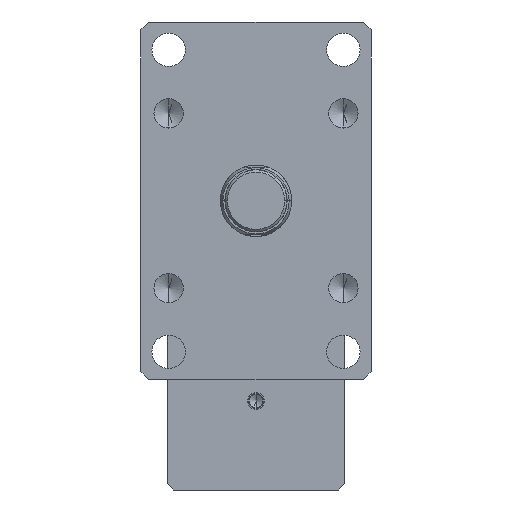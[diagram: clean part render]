
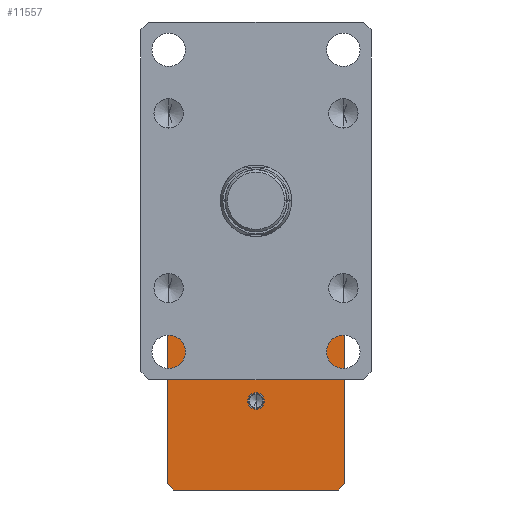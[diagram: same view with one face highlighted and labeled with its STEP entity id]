
A CAD part, left-side view. The second image highlights one B-rep face of the part: STEP entity #11557.
In plain terms, the highlighted planar face has unit normal (-1, 0, 0).
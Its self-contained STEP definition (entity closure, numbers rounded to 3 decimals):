
#7 = CIRCLE ( 'NONE', #11742, 5.143 ) ;
#72 = VERTEX_POINT ( 'NONE', #1084 ) ;
#95 = VECTOR ( 'NONE', #6334, 1000. ) ;
#216 = CARTESIAN_POINT ( 'NONE',  ( 275., 0., -131.143 ) ) ;
#294 = FACE_BOUND ( 'NONE', #956, .T. ) ;
#429 = DIRECTION ( 'NONE',  ( 0., 0., 1. ) ) ;
#570 = PLANE ( 'NONE',  #5093 ) ;
#670 = VECTOR ( 'NONE', #2112, 1000. ) ;
#689 = VERTEX_POINT ( 'NONE', #1125 ) ;
#956 = EDGE_LOOP ( 'NONE', ( #10398, #9100 ) ) ;
#969 = VERTEX_POINT ( 'NONE', #12212 ) ;
#1026 = EDGE_CURVE ( 'NONE', #689, #72, #1256, .T. ) ;
#1084 = CARTESIAN_POINT ( 'NONE',  ( 275., 56., -74. ) ) ;
#1110 = DIRECTION ( 'NONE',  ( -1., 0., 0. ) ) ;
#1125 = CARTESIAN_POINT ( 'NONE',  ( 275., 52., -70. ) ) ;
#1195 = LINE ( 'NONE', #5714, #6144 ) ;
#1256 = LINE ( 'NONE', #5092, #6198 ) ;
#1287 = EDGE_LOOP ( 'NONE', ( #5026, #2147, #9121, #4545, #11836, #11844, #7939, #8599 ) ) ;
#1340 = VERTEX_POINT ( 'NONE', #6036 ) ;
#1565 = DIRECTION ( 'NONE',  ( 1., 0., 0. ) ) ;
#1821 = DIRECTION ( 'NONE',  ( 0., 1., 0. ) ) ;
#1977 = VERTEX_POINT ( 'NONE', #216 ) ;
#2112 = DIRECTION ( 'NONE',  ( 0., -0.707, 0.707 ) ) ;
#2147 = ORIENTED_EDGE ( 'NONE', *, *, #5008, .T. ) ;
#2489 = VERTEX_POINT ( 'NONE', #4521 ) ;
#3251 = DIRECTION ( 'NONE',  ( 0., 0.707, 0.707 ) ) ;
#4016 = VECTOR ( 'NONE', #3251, 1000. ) ;
#4191 = CARTESIAN_POINT ( 'NONE',  ( 275., -56., -74. ) ) ;
#4292 = VERTEX_POINT ( 'NONE', #9918 ) ;
#4521 = CARTESIAN_POINT ( 'NONE',  ( 275., -52., -70. ) ) ;
#4545 = ORIENTED_EDGE ( 'NONE', *, *, #1026, .T. ) ;
#4631 = EDGE_CURVE ( 'NONE', #2489, #689, #1195, .T. ) ;
#4665 = DIRECTION ( 'NONE',  ( 0., 0., 1. ) ) ;
#4679 = CIRCLE ( 'NONE', #6335, 5.143 ) ;
#4947 = EDGE_CURVE ( 'NONE', #10882, #1977, #7, .T. ) ;
#5008 = EDGE_CURVE ( 'NONE', #4292, #2489, #9563, .T. ) ;
#5026 = ORIENTED_EDGE ( 'NONE', *, *, #12475, .T. ) ;
#5092 = CARTESIAN_POINT ( 'NONE',  ( 275., 56., -74. ) ) ;
#5093 = AXIS2_PLACEMENT_3D ( 'NONE', #11328, #1565, #8451 ) ;
#5164 = DIRECTION ( 'NONE',  ( 0., 0.707, -0.707 ) ) ;
#5355 = VERTEX_POINT ( 'NONE', #7889 ) ;
#5423 = CARTESIAN_POINT ( 'NONE',  ( 275., 56., -182. ) ) ;
#5513 = LINE ( 'NONE', #5423, #7515 ) ;
#5647 = VERTEX_POINT ( 'NONE', #11309 ) ;
#5714 = CARTESIAN_POINT ( 'NONE',  ( 275., -56., -70. ) ) ;
#6036 = CARTESIAN_POINT ( 'NONE',  ( 275., -52., -182. ) ) ;
#6144 = VECTOR ( 'NONE', #1821, 1000. ) ;
#6198 = VECTOR ( 'NONE', #5164, 1000. ) ;
#6322 = DIRECTION ( 'NONE',  ( -1., 0., 0. ) ) ;
#6334 = DIRECTION ( 'NONE',  ( 0., 1., 0. ) ) ;
#6335 = AXIS2_PLACEMENT_3D ( 'NONE', #12248, #6322, #429 ) ;
#6401 = DIRECTION ( 'NONE',  ( 0., 0., 1. ) ) ;
#6634 = VECTOR ( 'NONE', #4665, 1000. ) ;
#7005 = CARTESIAN_POINT ( 'NONE',  ( 275., -52., -182. ) ) ;
#7018 = CARTESIAN_POINT ( 'NONE',  ( 275., 0., -126. ) ) ;
#7262 = EDGE_CURVE ( 'NONE', #1340, #5355, #10588, .T. ) ;
#7515 = VECTOR ( 'NONE', #6401, 1000. ) ;
#7624 = CARTESIAN_POINT ( 'NONE',  ( 275., 0., -120.857 ) ) ;
#7826 = EDGE_CURVE ( 'NONE', #969, #72, #5513, .T. ) ;
#7889 = CARTESIAN_POINT ( 'NONE',  ( 275., 52., -182. ) ) ;
#7939 = ORIENTED_EDGE ( 'NONE', *, *, #7262, .F. ) ;
#8024 = DIRECTION ( 'NONE',  ( 0., 0., 1. ) ) ;
#8451 = DIRECTION ( 'NONE',  ( 0., 0., -1. ) ) ;
#8511 = LINE ( 'NONE', #7005, #670 ) ;
#8599 = ORIENTED_EDGE ( 'NONE', *, *, #8734, .T. ) ;
#8734 = EDGE_CURVE ( 'NONE', #1340, #5647, #8511, .T. ) ;
#8798 = CARTESIAN_POINT ( 'NONE',  ( 275., 52., -182. ) ) ;
#9100 = ORIENTED_EDGE ( 'NONE', *, *, #9460, .F. ) ;
#9121 = ORIENTED_EDGE ( 'NONE', *, *, #4631, .T. ) ;
#9385 = VECTOR ( 'NONE', #9795, 1000. ) ;
#9460 = EDGE_CURVE ( 'NONE', #1977, #10882, #4679, .T. ) ;
#9563 = LINE ( 'NONE', #4191, #4016 ) ;
#9795 = DIRECTION ( 'NONE',  ( 0., -0.707, -0.707 ) ) ;
#9918 = CARTESIAN_POINT ( 'NONE',  ( 275., -56., -74. ) ) ;
#10237 = CARTESIAN_POINT ( 'NONE',  ( 275., -56., -182. ) ) ;
#10398 = ORIENTED_EDGE ( 'NONE', *, *, #4947, .F. ) ;
#10466 = FACE_OUTER_BOUND ( 'NONE', #1287, .T. ) ;
#10545 = CARTESIAN_POINT ( 'NONE',  ( 275., -56., -182. ) ) ;
#10588 = LINE ( 'NONE', #10237, #95 ) ;
#10882 = VERTEX_POINT ( 'NONE', #7624 ) ;
#11242 = LINE ( 'NONE', #10545, #6634 ) ;
#11309 = CARTESIAN_POINT ( 'NONE',  ( 275., -56., -178. ) ) ;
#11328 = CARTESIAN_POINT ( 'NONE',  ( 275., -56., -182. ) ) ;
#11557 = ADVANCED_FACE ( 'NONE', ( #294, #10466 ), #570, .F. ) ;
#11742 = AXIS2_PLACEMENT_3D ( 'NONE', #7018, #1110, #8024 ) ;
#11836 = ORIENTED_EDGE ( 'NONE', *, *, #7826, .F. ) ;
#11844 = ORIENTED_EDGE ( 'NONE', *, *, #12644, .T. ) ;
#12212 = CARTESIAN_POINT ( 'NONE',  ( 275., 56., -178. ) ) ;
#12248 = CARTESIAN_POINT ( 'NONE',  ( 275., 0., -126. ) ) ;
#12345 = LINE ( 'NONE', #8798, #9385 ) ;
#12475 = EDGE_CURVE ( 'NONE', #5647, #4292, #11242, .T. ) ;
#12644 = EDGE_CURVE ( 'NONE', #969, #5355, #12345, .T. ) ;
